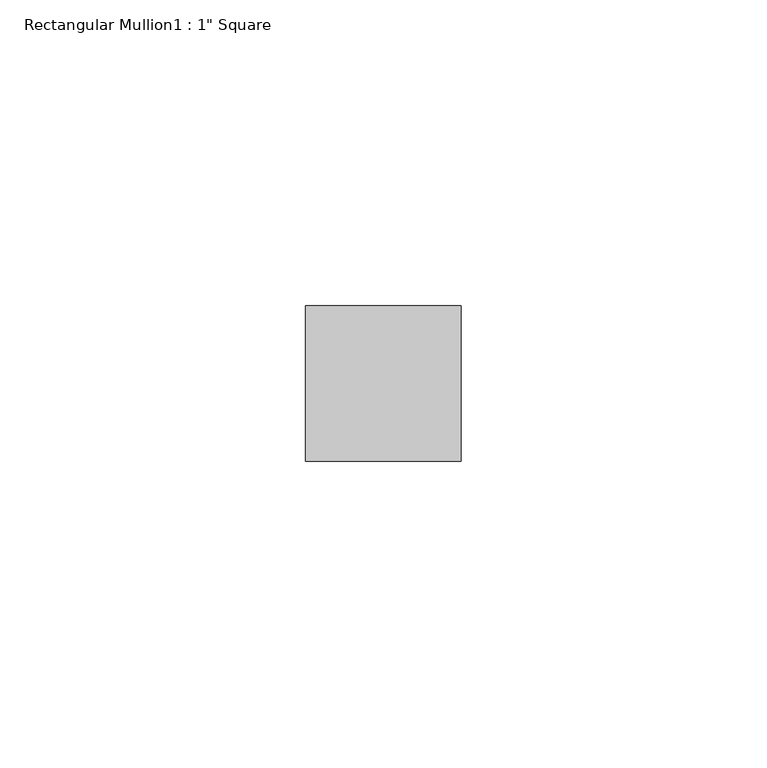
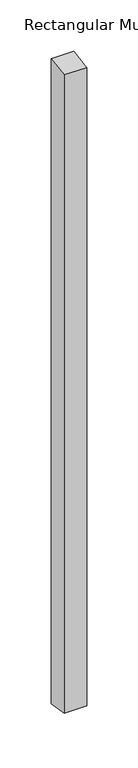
"""IFC4 building model written with IfcOpenShell, lengths in millimetres: member geometry."""

from ifc_helpers import new_model, si_unit, frame, origin, place, context, project, spatial, polyline, outline, extrude, source, transform, mapped, element, save


def member_4057df82(model_context):
    return source(origin(), model_context, "Body", "SweptSolid", [
        extrude(outline(polyline([(-44.45, -7.0452458), (-19.05, -3.019391), (-19.05, -772.1183016), (-44.45, -768.0924469), (-44.45, -7.0452458)])), frame((-12.7, 0.0, 0.0), z_axis=(1.0, 0.0, 0.0), x_axis=(0.0, 1.0, 0.0)), (0.0, 0.0, 1.0), 25.4),
    ])


if __name__ == "__main__":
    model = new_model("IFC4")
    model_context = context("Model", 3, world=origin())
    ifc_project = project(units=[si_unit("LENGTHUNIT", "METRE", prefix="MILLI")], contexts=[model_context])
    site = spatial("IfcSite", under=ifc_project)
    building = spatial("IfcBuilding", under=site)
    placement = place(None, origin())
    member_shape = member_4057df82(model_context)
    element("IfcMember", 1, ObjectType="Rectangular Mullion1 : 1\" Square", at=placement, inside=building, context=model_context, shape_type="MappedRepresentation", body=[
        mapped(member_shape, transform((0.0, 0.0, 0.0), x_axis=(1.0, 0.0, 0.0), y_axis=(0.0, 1.0, 0.0), z_axis=(0.0, 0.0, 1.0))),
    ])
    save(model, "model.ifc")
